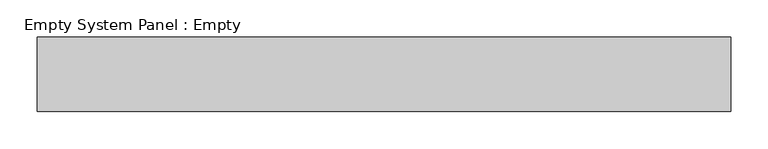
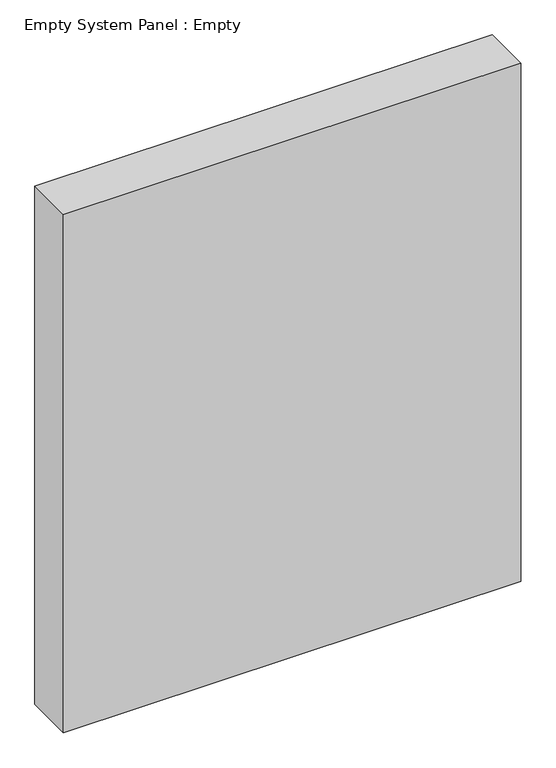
"""IFC4 building model written with IfcOpenShell, lengths in millimetres: plate geometry, Empty System Panel : Empty."""

from ifc_helpers import new_model, si_unit, origin, origin_with_axes, place, context, project, spatial, polyline, outline, extrude, source, transform, mapped, element, save


def empty_system_panel_empty_c6afd72d(model_context):
    return source(origin(), model_context, "Body", "SweptSolid", [
        extrude(outline(polyline([(464.2950184, -50.0), (-464.2950184, -50.0), (-464.2950184, 50.0), (464.2950184, 50.0), (464.2950184, -50.0)])), origin_with_axes(), (0.0, 0.0, 1.0), 1112.5),
    ])


if __name__ == "__main__":
    model = new_model("IFC4")
    model_context = context("Model", 3, world=origin())
    ifc_project = project(units=[si_unit("LENGTHUNIT", "METRE", prefix="MILLI")], contexts=[model_context])
    site = spatial("IfcSite", under=ifc_project)
    building = spatial("IfcBuilding", under=site)
    placement = place(None, origin())
    empty_system_panel_empty_shape = empty_system_panel_empty_c6afd72d(model_context)
    element("IfcPlate", 1, ObjectType="Empty System Panel : Empty", at=placement, inside=building, context=model_context, shape_type="MappedRepresentation", body=[
        mapped(empty_system_panel_empty_shape, transform((0.0, 0.0, 0.0), x_axis=(1.0, 0.0, 0.0), y_axis=(0.0, 1.0, 0.0), z_axis=(0.0, 0.0, 1.0))),
    ])
    save(model, "model.ifc")
